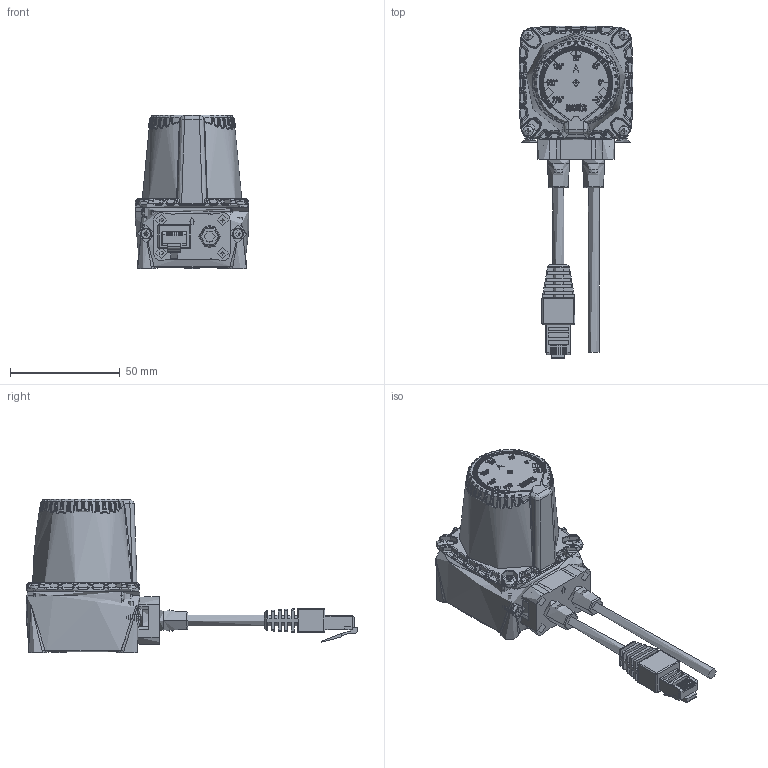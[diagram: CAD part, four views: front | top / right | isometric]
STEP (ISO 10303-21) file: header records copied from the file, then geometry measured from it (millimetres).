
FILE_DESCRIPTION(/* description */ (''),/* implementation_level */ '2;1');
FILE_NAME(/* name */ 'YB27-25CE.stp',/* time_stamp */ '2024-03-14T14:36:08+08:00',/* author */ (''),/* organization */ (''),/* preprocessor_version */ 'ST-DEVELOPER v14',/* originating_system */ 'SIEMENS PLM Software NX 8.0',/* authorisation */ '');
FILE_SCHEMA (('AUTOMOTIVE_DESIGN { 1 0 10303 214 3 1 1 1 }'));
Products named in the file (1): YB27-25CE
Bounding box: 52.04 x 151.55 x 70.1 mm (x, y, z)
Volume: 48091.3 mm3; surface area: 47045.5 mm2
Topology: 350 solids, 364 shells, 7130 faces, 18436 edges, 11943 vertices
Faces by surface type: plane 4443, bspline 1257, cylinder 720, extrusion 367, cone 180, torus 109, sphere 54
Full cylindrical faces by diameter (mm): 1.35 x6, 1.7 x2, 1.8 x6, 1.886 x3, 2 x4, 2.06 x1, 2.38 x4, 2.5 x10, 2.9 x1, 3 x1, 3.1 x3, 3.2 x1, 3.4 x2, 3.5 x2, 3.8 x3, 4.2 x10, 4.5 x4, 4.8 x6, 5 x6, 5.1 x4, 7.9 x2, 8 x1, 10 x2
Entity records: 336720 total; most frequent: CARTESIAN_POINT 160323, ORIENTED_EDGE 36326, DIRECTION 26982, EDGE_CURVE 18163, VERTEX_POINT 11881, AXIS2_PLACEMENT_3D 9281, VECTOR 8420, LINE 8053
